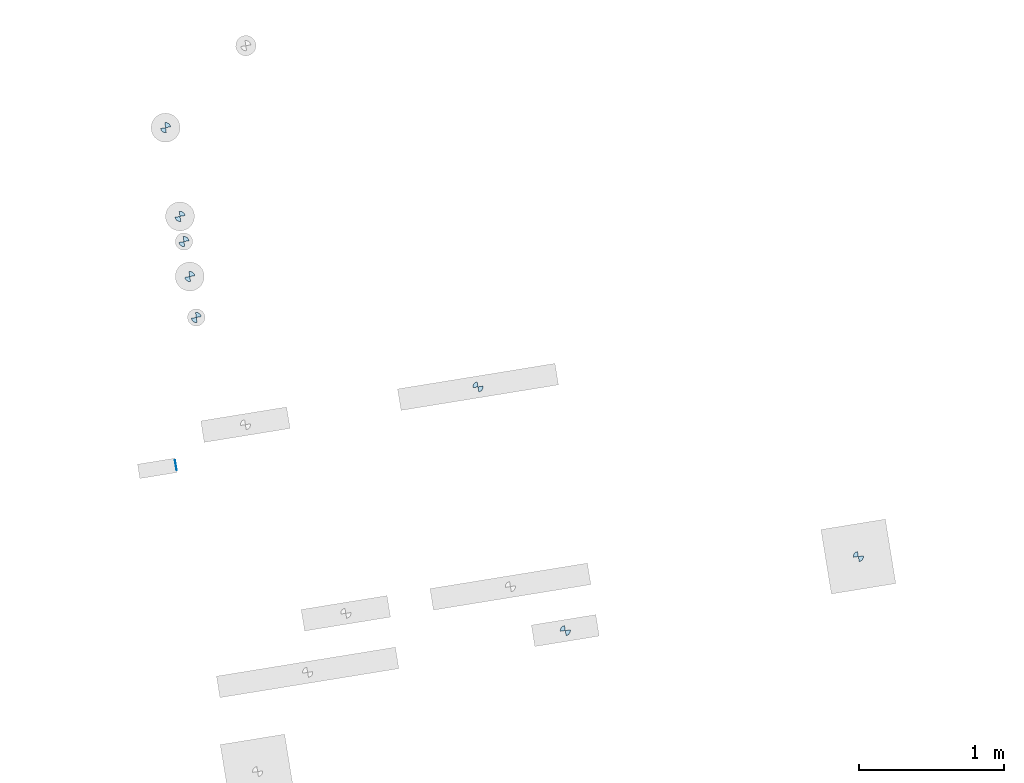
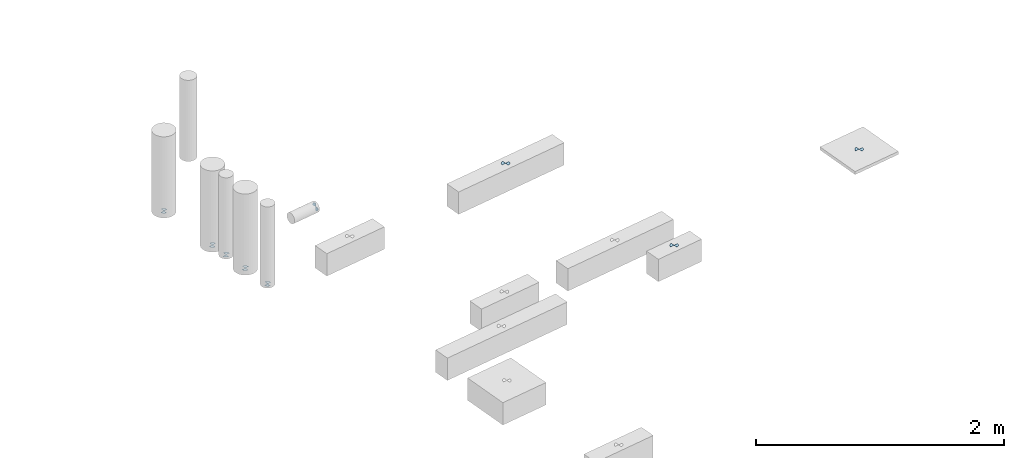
# One storey, part 2 of 4: 9 slabs.
"""IFC2X3 building model written with IfcOpenShell, lengths in millimetres."""

from ifc_helpers import new_model, entity, si_unit, converted_unit, derived_unit, direction, frame, frame_2d, origin, origin_with_axes, place, context, subcontext, project, spatial, polyline, circle_curve, parameter, trimmed, segment, composite_curve, outline, extrude, material, type_object, element, save


model = new_model("IFC2X3")

# Units and contexts
plan_context = context("Plan", 3, precision=1e-05, world=origin_with_axes())
model_context = context("Model", 3, precision=0.01, world=origin(), true_north=direction((6.12323399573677e-17, 1.0)))
body_context = subcontext(model_context, "Body", "Model", "MODEL_VIEW")
ifc_project = project(units=[converted_unit("PLANEANGLEUNIT", "DEGREE", entity("IfcPositiveLengthMeasure", 0.0174532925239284), si_unit("PLANEANGLEUNIT", "RADIAN"), dimensions=[0, 0, 0, 0, 0, 0, 0]), si_unit("AREAUNIT", "SQUARE_METRE"), si_unit("LENGTHUNIT", "METRE", prefix="MILLI"), si_unit("MASSUNIT", "GRAM", prefix="KILO"), si_unit("POWERUNIT", "WATT"), si_unit("PRESSUREUNIT", "PASCAL", prefix="KILO"), si_unit("FORCEUNIT", "NEWTON", prefix="KILO"), si_unit("ELECTRICVOLTAGEUNIT", "VOLT"), si_unit("ELECTRICCURRENTUNIT", "AMPERE"), si_unit("THERMODYNAMICTEMPERATUREUNIT", "DEGREE_CELSIUS"), si_unit("TIMEUNIT", "SECOND"), si_unit("VOLUMEUNIT", "CUBIC_METRE"), derived_unit("LINEARVELOCITYUNIT", [(si_unit("LENGTHUNIT", "METRE"), 1), (si_unit("TIMEUNIT", "SECOND"), -1)]), derived_unit("VOLUMETRICFLOWRATEUNIT", [(si_unit("VOLUMEUNIT", "CUBIC_METRE"), 1), (si_unit("TIMEUNIT", "SECOND"), -1)]), derived_unit("THERMALTRANSMITTANCEUNIT", [(si_unit("POWERUNIT", "WATT"), 1), (si_unit("THERMODYNAMICTEMPERATUREUNIT", "KELVIN"), -1), (si_unit("AREAUNIT", "SQUARE_METRE"), -1)]), derived_unit("SOUNDPRESSUREUNIT", [(si_unit("PRESSUREUNIT", "PASCAL"), 1)])], contexts=[model_context, plan_context])

# Site, building, storey
site_placement = place(None, frame((-0.00071070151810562, 0.00438415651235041, 0.0), z_axis=(0.0, 0.0, 1.0), x_axis=(-0.160236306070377, 0.987078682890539, 0.0)))
site = spatial("IfcSite", under=ifc_project, at=site_placement, Name="Default", CompositionType="ELEMENT")
building_placement = place(site_placement, origin_with_axes())
building = spatial("IfcBuilding", under=site, at=building_placement, CompositionType="ELEMENT")
storey_placement = place(building_placement, frame((0.0, 0.0, 58999.9999999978), z_axis=(0.0, 0.0, 1.0), x_axis=(1.0, 0.0, 0.0)))
storey = spatial("IfcBuildingStorey", under=building, at=storey_placement, Name="Nivå F", CompositionType="ELEMENT", Elevation=58999.9999999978)

# Slabs
ifc_material = material(Name="Black")
slab_type_1 = type_object("IfcSlabType", Name="SurveyMarker:Custom", PredefinedType="BASESLAB", material=ifc_material)
slab_1_placement = place(storey_placement, origin_with_axes())
element("IfcSlab", 1, at=slab_1_placement, inside=storey, type_object=slab_type_1, Name="SurveyMarker:Custom", ObjectType="SurveyMarker:Custom", PredefinedType="BASESLAB", context=body_context, shape_type="SweptSolid", body=[
    extrude(outline(composite_curve([segment(polyline([(-11.6666666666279, -11.6666666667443), (23.3333333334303, -11.6666666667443)]), True, "CONTINUOUS"), segment(trimmed(circle_curve(frame_2d((-11.6666666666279, -11.6666666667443), x_axis=(0.0, 1.0)), 35.0), [parameter(269.999999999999)], [parameter(359.999999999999)], True, "PARAMETER"), True, "CONTINUOUS"), segment(polyline([(-11.6666666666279, 23.3333333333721), (-11.6666666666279, -11.6666666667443)]), True, "CONTINUOUS")], self_intersect=False)), frame((771398.586310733, -501348.186598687, -800.0), z_axis=(0.0, 0.0, 1.0), x_axis=(0.0, -1.0, 0.0)), (0.0, 0.0, 1.0), 0.799999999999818),
    extrude(outline(composite_curve([segment(polyline([(-11.6666666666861, -11.6666666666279), (23.3333333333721, -11.6666666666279)]), True, "CONTINUOUS"), segment(trimmed(circle_curve(frame_2d((-11.6666666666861, -11.6666666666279), x_axis=(0.0, 1.0)), 35.0), [parameter(269.999999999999)], [parameter(359.999999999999)], True, "PARAMETER"), True, "CONTINUOUS"), segment(polyline([(-11.6666666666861, 23.3333333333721), (-11.6666666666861, -11.6666666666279)]), True, "CONTINUOUS")], self_intersect=False)), frame((771375.2529774, -501324.853265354, -800.0), z_axis=(0.0, 0.0, 1.0), x_axis=(0.0, 1.0, 0.0)), (0.0, 0.0, 1.0), 0.799999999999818),
])
slab_2_placement = place(storey_placement, origin_with_axes())
element("IfcSlab", 2, at=slab_2_placement, inside=storey, type_object=slab_type_1, Name="SurveyMarker:Custom", ObjectType="SurveyMarker:Custom", PredefinedType="BASESLAB", context=body_context, shape_type="SweptSolid", body=[
    extrude(outline(composite_curve([segment(polyline([(-11.6666666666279, -11.6666666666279), (23.3333333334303, -11.6666666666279)]), True, "CONTINUOUS"), segment(trimmed(circle_curve(frame_2d((-11.6666666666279, -11.6666666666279), x_axis=(0.0, 1.0)), 35.0), [parameter(269.999999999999)], [parameter(359.999999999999)], True, "PARAMETER"), True, "CONTINUOUS"), segment(polyline([(-11.6666666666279, 23.3333333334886), (-11.6666666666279, -11.6666666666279)]), True, "CONTINUOUS")], self_intersect=False)), frame((771928.586310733, -501348.186598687, -800.0), z_axis=(0.0, 0.0, 1.0), x_axis=(0.0, -1.0, 0.0)), (0.0, 0.0, 1.0), 0.799999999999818),
    extrude(outline(composite_curve([segment(polyline([(-11.6666666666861, -11.6666666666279), (23.3333333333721, -11.6666666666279)]), True, "CONTINUOUS"), segment(trimmed(circle_curve(frame_2d((-11.6666666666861, -11.6666666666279), x_axis=(0.0, 1.0)), 35.0), [parameter(269.999999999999)], [parameter(359.999999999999)], True, "PARAMETER"), True, "CONTINUOUS"), segment(polyline([(-11.6666666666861, 23.3333333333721), (-11.6666666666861, -11.6666666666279)]), True, "CONTINUOUS")], self_intersect=False)), frame((771905.252977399, -501324.853265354, -800.0), z_axis=(0.0, 0.0, 1.0), x_axis=(0.0, 1.0, 0.0)), (0.0, 0.0, 1.0), 0.799999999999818),
])
slab_3_placement = place(storey_placement, origin_with_axes())
element("IfcSlab", 3, at=slab_3_placement, inside=storey, type_object=slab_type_1, Name="SurveyMarker:Custom", ObjectType="SurveyMarker:Custom", PredefinedType="BASESLAB", context=body_context, shape_type="SweptSolid", body=[
    extrude(outline(composite_curve([segment(polyline([(-11.6666666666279, -11.6666666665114), (23.3333333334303, -11.6666666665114)]), True, "CONTINUOUS"), segment(trimmed(circle_curve(frame_2d((-11.6666666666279, -11.6666666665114), x_axis=(0.0, 1.0)), 35.0), [parameter(269.999999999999)], [parameter(359.999999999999)], True, "PARAMETER"), True, "CONTINUOUS"), segment(polyline([(-11.6666666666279, 23.3333333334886), (-11.6666666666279, -11.6666666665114)]), True, "CONTINUOUS")], self_intersect=False)), frame((771684.293150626, -501348.954148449, -800.0), z_axis=(0.0, 0.0, 1.0), x_axis=(0.0, -1.0, 0.0)), (0.0, 0.0, 1.0), 0.799999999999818),
    extrude(outline(composite_curve([segment(polyline([(-11.6666666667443, -11.6666666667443), (23.3333333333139, -11.6666666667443)]), True, "CONTINUOUS"), segment(trimmed(circle_curve(frame_2d((-11.6666666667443, -11.6666666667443), x_axis=(0.0, 1.0)), 35.0), [parameter(269.999999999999)], [parameter(359.999999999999)], True, "PARAMETER"), True, "CONTINUOUS"), segment(polyline([(-11.6666666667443, 23.3333333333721), (-11.6666666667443, -11.6666666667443)]), True, "CONTINUOUS")], self_intersect=False)), frame((771660.959817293, -501325.620815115, -800.0), z_axis=(0.0, 0.0, 1.0), x_axis=(0.0, 1.0, 0.0)), (0.0, 0.0, 1.0), 0.799999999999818),
])
slab_4_placement = place(storey_placement, origin_with_axes())
element("IfcSlab", 4, at=slab_4_placement, inside=storey, type_object=slab_type_1, Name="SurveyMarker:Custom", ObjectType="SurveyMarker:Custom", PredefinedType="BASESLAB", context=body_context, shape_type="SweptSolid", body=[
    extrude(outline(composite_curve([segment(polyline([(-11.6666666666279, -11.6666666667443), (23.3333333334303, -11.6666666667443)]), True, "CONTINUOUS"), segment(trimmed(circle_curve(frame_2d((-11.6666666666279, -11.6666666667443), x_axis=(0.0, 1.0)), 35.0), [parameter(269.999999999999)], [parameter(359.999999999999)], True, "PARAMETER"), True, "CONTINUOUS"), segment(polyline([(-11.6666666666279, 23.3333333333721), (-11.6666666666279, -11.6666666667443)]), True, "CONTINUOUS")], self_intersect=False)), frame((772104.285899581, -501348.954148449, -800.0), z_axis=(0.0, 0.0, 1.0), x_axis=(0.0, -1.0, 0.0)), (0.0, 0.0, 1.0), 0.799999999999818),
    extrude(outline(composite_curve([segment(polyline([(-11.6666666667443, -11.6666666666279), (23.3333333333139, -11.6666666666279)]), True, "CONTINUOUS"), segment(trimmed(circle_curve(frame_2d((-11.6666666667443, -11.6666666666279), x_axis=(0.0, 1.0)), 35.0), [parameter(269.999999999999)], [parameter(359.999999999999)], True, "PARAMETER"), True, "CONTINUOUS"), segment(polyline([(-11.6666666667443, 23.3333333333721), (-11.6666666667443, -11.6666666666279)]), True, "CONTINUOUS")], self_intersect=False)), frame((772080.952566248, -501325.620815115, -800.0), z_axis=(0.0, 0.0, 1.0), x_axis=(0.0, 1.0, 0.0)), (0.0, 0.0, 1.0), 0.799999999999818),
])
slab_5_placement = place(storey_placement, origin_with_axes())
element("IfcSlab", 5, at=slab_5_placement, inside=storey, type_object=slab_type_1, Name="SurveyMarker:Custom", ObjectType="SurveyMarker:Custom", PredefinedType="BASESLAB", context=body_context, shape_type="SweptSolid", body=[
    extrude(outline(composite_curve([segment(polyline([(-11.6666666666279, -11.6666666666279), (23.3333333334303, -11.6666666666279)]), True, "CONTINUOUS"), segment(trimmed(circle_curve(frame_2d((-11.6666666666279, -11.6666666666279), x_axis=(0.0, 1.0)), 35.0), [parameter(269.999999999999)], [parameter(359.999999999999)], True, "PARAMETER"), True, "CONTINUOUS"), segment(polyline([(-11.6666666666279, 23.3333333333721), (-11.6666666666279, -11.6666666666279)]), True, "CONTINUOUS")], self_intersect=False)), frame((772724.285899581, -501348.954148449, -800.0), z_axis=(0.0, 0.0, 1.0), x_axis=(0.0, -1.0, 0.0)), (0.0, 0.0, 1.0), 0.799999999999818),
    extrude(outline(composite_curve([segment(polyline([(-11.6666666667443, -11.6666666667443), (23.3333333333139, -11.6666666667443)]), True, "CONTINUOUS"), segment(trimmed(circle_curve(frame_2d((-11.6666666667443, -11.6666666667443), x_axis=(0.0, 1.0)), 35.0), [parameter(269.999999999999)], [parameter(359.999999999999)], True, "PARAMETER"), True, "CONTINUOUS"), segment(polyline([(-11.6666666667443, 23.3333333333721), (-11.6666666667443, -11.6666666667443)]), True, "CONTINUOUS")], self_intersect=False)), frame((772700.952566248, -501325.620815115, -800.0), z_axis=(0.0, 0.0, 1.0), x_axis=(0.0, 1.0, 0.0)), (0.0, 0.0, 1.0), 0.799999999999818),
])
slab_6_placement = place(storey_placement, origin_with_axes())
element("IfcSlab", 6, at=slab_6_placement, inside=storey, type_object=slab_type_1, Name="SurveyMarker:Custom", ObjectType="SurveyMarker:Custom", PredefinedType="BASESLAB", context=body_context, shape_type="SweptSolid", body=[
    extrude(outline(composite_curve([segment(polyline([(-11.666666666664, -11.6666666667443), (23.3333333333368, -11.6666666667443)]), True, "CONTINUOUS"), segment(trimmed(circle_curve(frame_2d((-11.666666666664, -11.6666666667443), x_axis=(0.0, 1.0)), 35.0), [parameter(269.999999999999)], [parameter(359.999999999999)], True, "PARAMETER"), True, "CONTINUOUS"), segment(polyline([(-11.666666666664, 23.3333333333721), (-11.666666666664, -11.6666666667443)]), True, "CONTINUOUS")], self_intersect=False)), frame((770390.9529774, -501034.42772804, 618.33333333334), z_axis=(0.0, 1.0, 0.0), x_axis=(0.0, 0.0, -1.0)), (0.0, 0.0, 1.0), 0.799999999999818),
    extrude(outline(composite_curve([segment(polyline([(-11.666666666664, -11.6666666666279), (23.3333333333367, -11.6666666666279)]), True, "CONTINUOUS"), segment(trimmed(circle_curve(frame_2d((-11.666666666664, -11.6666666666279), x_axis=(0.0, 1.0)), 35.0), [parameter(269.999999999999)], [parameter(359.999999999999)], True, "PARAMETER"), True, "CONTINUOUS"), segment(polyline([(-11.666666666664, 23.3333333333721), (-11.666666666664, -11.6666666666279)]), True, "CONTINUOUS")], self_intersect=False)), frame((770414.286310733, -501034.42772804, 641.666666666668), z_axis=(0.0, 1.0, 0.0), x_axis=(0.0, 0.0, 1.0)), (0.0, 0.0, 1.0), 0.799999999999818),
])
slab_type_2 = type_object("IfcSlabType", Name="SurveyMarker rektangulær:Custom", PredefinedType="BASESLAB", material=ifc_material)
slab_7_placement = place(storey_placement, origin_with_axes())
element("IfcSlab", 7, at=slab_7_placement, inside=storey, type_object=slab_type_2, Name="SurveyMarker rektangulær:Custom", ObjectType="SurveyMarker rektangulær:Custom", PredefinedType="BASESLAB", context=body_context, shape_type="SweptSolid", body=[
    extrude(outline(composite_curve([segment(polyline([(-11.6666666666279, -11.6666666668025), (23.3333333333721, -11.6666666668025)]), True, "CONTINUOUS"), segment(trimmed(circle_curve(frame_2d((-11.6666666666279, -11.6666666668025), x_axis=(1.0, 0.0)), 35.0), [parameter(5.08888749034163e-13)], [parameter(90.0000000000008)], True, "PARAMETER"), True, "CONTINUOUS"), segment(polyline([(-11.6666666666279, 23.3333333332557), (-11.6666666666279, -11.6666666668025)]), True, "CONTINUOUS")], self_intersect=False)), frame((769039.286310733, -505567.411096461, -70.8000000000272)), (0.0, 0.0, 1.0), 0.799999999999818),
    extrude(outline(composite_curve([segment(polyline([(-11.6666666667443, -11.6666666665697), (23.3333333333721, -11.6666666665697)]), True, "CONTINUOUS"), segment(trimmed(circle_curve(frame_2d((-11.6666666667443, -11.6666666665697), x_axis=(1.0, 0.0)), 35.0), [parameter(5.08888749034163e-13)], [parameter(90.0000000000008)], True, "PARAMETER"), True, "CONTINUOUS"), segment(polyline([(-11.6666666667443, 23.3333333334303), (-11.6666666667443, -11.6666666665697)]), True, "CONTINUOUS")], self_intersect=False)), frame((769015.9529774, -505590.744429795, -70.8000000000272), z_axis=(0.0, 0.0, 1.0), x_axis=(-1.0, 0.0, 0.0)), (0.0, 0.0, 1.0), 0.799999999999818),
])
slab_8_placement = place(storey_placement, origin_with_axes())
element("IfcSlab", 8, at=slab_8_placement, inside=storey, type_object=slab_type_2, Name="SurveyMarker rektangulær:Custom", ObjectType="SurveyMarker rektangulær:Custom", PredefinedType="BASESLAB", context=body_context, shape_type="SweptSolid", body=[
    extrude(outline(composite_curve([segment(polyline([(-11.6666666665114, -11.6666666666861), (23.3333333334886, -11.6666666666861)]), True, "CONTINUOUS"), segment(trimmed(circle_curve(frame_2d((-11.6666666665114, -11.6666666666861), x_axis=(1.0, 0.0)), 35.0), [parameter(5.08888749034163e-13)], [parameter(90.0000000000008)], True, "PARAMETER"), True, "CONTINUOUS"), segment(polyline([(-11.6666666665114, 23.3333333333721), (-11.6666666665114, -11.6666666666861)]), True, "CONTINUOUS")], self_intersect=False)), frame((770614.286310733, -503165.803938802, -0.799999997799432)), (0.0, 0.0, 1.0), 0.799999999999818),
    extrude(outline(composite_curve([segment(polyline([(-11.6666666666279, -11.6666666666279), (23.3333333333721, -11.6666666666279)]), True, "CONTINUOUS"), segment(trimmed(circle_curve(frame_2d((-11.6666666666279, -11.6666666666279), x_axis=(1.0, 0.0)), 35.0), [parameter(5.08888749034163e-13)], [parameter(90.0000000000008)], True, "PARAMETER"), True, "CONTINUOUS"), segment(polyline([(-11.6666666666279, 23.3333333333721), (-11.6666666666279, -11.6666666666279)]), True, "CONTINUOUS")], self_intersect=False)), frame((770590.9529774, -503189.137272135, -0.799999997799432), z_axis=(0.0, 0.0, 1.0), x_axis=(-1.0, 0.0, 0.0)), (0.0, 0.0, 1.0), 0.799999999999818),
])
slab_9_placement = place(storey_placement, origin_with_axes())
element("IfcSlab", 9, at=slab_9_placement, inside=storey, type_object=slab_type_2, Name="SurveyMarker rektangulær:Custom", ObjectType="SurveyMarker rektangulær:Custom", PredefinedType="BASESLAB", context=body_context, shape_type="SweptSolid", body=[
    extrude(outline(composite_curve([segment(polyline([(-11.6666666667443, -11.6666666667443), (23.3333333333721, -11.6666666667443)]), True, "CONTINUOUS"), segment(trimmed(circle_curve(frame_2d((-11.6666666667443, -11.6666666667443), x_axis=(1.0, 0.0)), 35.0), [parameter(5.08888749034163e-13)], [parameter(90.0000000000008)], True, "PARAMETER"), True, "CONTINUOUS"), segment(polyline([(-11.6666666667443, 23.3333333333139), (-11.6666666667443, -11.6666666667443)]), True, "CONTINUOUS")], self_intersect=False)), frame((768859.286310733, -503490.803938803, -0.799999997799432)), (0.0, 0.0, 1.0), 0.799999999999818),
    extrude(outline(composite_curve([segment(polyline([(-11.6666666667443, -11.6666666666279), (23.3333333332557, -11.6666666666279)]), True, "CONTINUOUS"), segment(trimmed(circle_curve(frame_2d((-11.6666666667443, -11.6666666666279), x_axis=(1.0, 0.0)), 35.0), [parameter(5.08888749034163e-13)], [parameter(90.0000000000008)], True, "PARAMETER"), True, "CONTINUOUS"), segment(polyline([(-11.6666666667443, 23.3333333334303), (-11.6666666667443, -11.6666666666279)]), True, "CONTINUOUS")], self_intersect=False)), frame((768835.952977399, -503514.137272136, -0.799999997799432), z_axis=(0.0, 0.0, 1.0), x_axis=(-1.0, 0.0, 0.0)), (0.0, 0.0, 1.0), 0.799999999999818),
])

save(model, "model.ifc")
